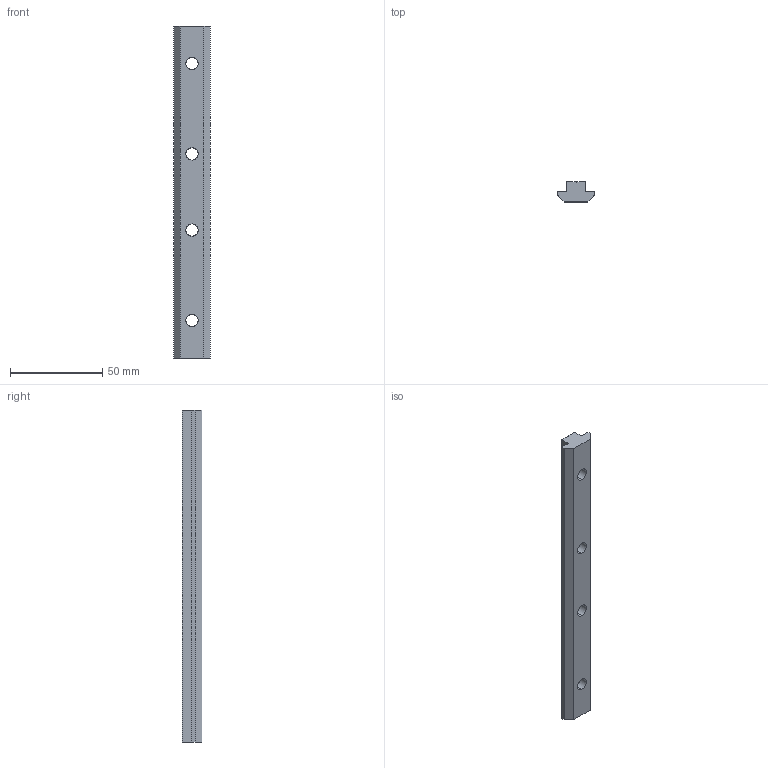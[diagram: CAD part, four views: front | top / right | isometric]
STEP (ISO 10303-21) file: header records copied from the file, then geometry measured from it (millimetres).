
FILE_DESCRIPTION (( 'STEP AP203' ), '1' );
FILE_NAME ('2020.STEP', '2016-04-03T13:43:19', ( '' ), ( '' ), 'SwSTEP 2.0', 'SolidWorks 2014', '' );
FILE_SCHEMA (( 'CONFIG_CONTROL_DESIGN' ));
Length unit declared in the file: millimetre
Products named in the file (1): 2020
Bounding box: 20 x 10.54 x 180 mm (x, y, z)
Volume: 25150.4 mm3; surface area: 11212.2 mm2
Topology: 1 solids, 1 shells, 31 faces, 91 edges, 58 vertices
Faces by surface type: plane 23, cylinder 8
Entity records: 1110 total; most frequent: CARTESIAN_POINT 229, ORIENTED_EDGE 182, DIRECTION 155, EDGE_CURVE 91, LINE 59, VECTOR 59, VERTEX_POINT 58, AXIS2_PLACEMENT_3D 48
